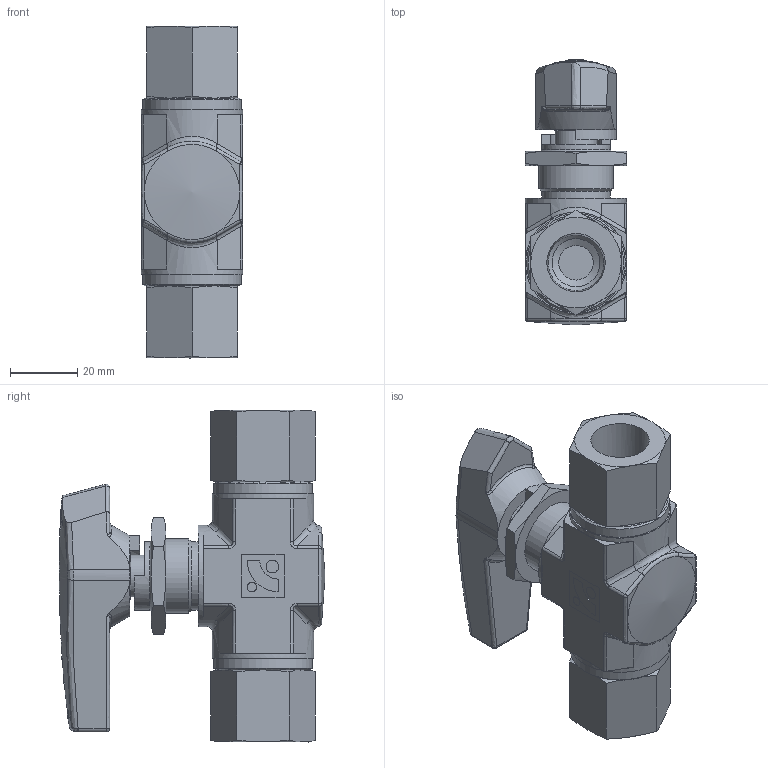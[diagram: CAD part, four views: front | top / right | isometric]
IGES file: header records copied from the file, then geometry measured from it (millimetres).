
Global section: file name: SBVF3603-F6N; native system: Autodesk Inventor 2016; preprocessor: unknown; author: DESIGNPC2; date: 20160610.190707; units: millimetre
Bounding box: 30.2 x 79.3 x 99 mm (x, y, z)
Volume: 95123 mm3; surface area: 26474.8 mm2
Topology: 6 solids, 6 shells, 498 faces, 1266 edges, 808 vertices
Faces by surface type: bspline 498
